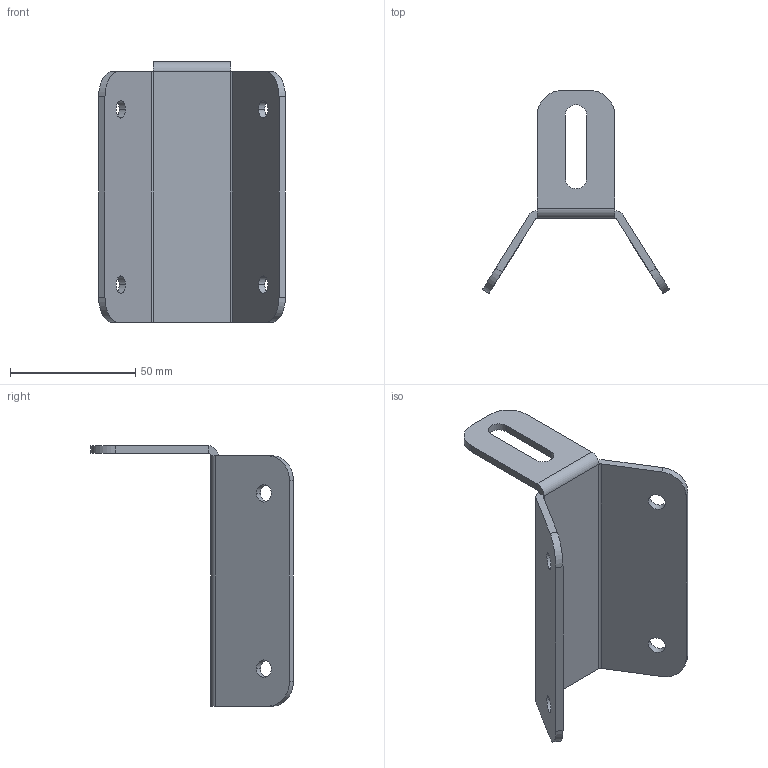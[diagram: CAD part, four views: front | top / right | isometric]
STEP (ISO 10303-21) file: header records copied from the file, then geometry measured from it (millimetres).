
FILE_DESCRIPTION (( 'STEP AP203' ), '1' );
FILE_NAME ('084.106.134.STEP', '2013-01-23T12:20:44', ( 'Alusic' ), ( 'Alusic' ), 'SwSTEP 2.0', 'SolidWorks 2011', '' );
FILE_SCHEMA (( 'CONFIG_CONTROL_DESIGN' ));
Length unit declared in the file: millimetre
Products named in the file (1): 084.106.134
Bounding box: 74.59 x 81 x 104 mm (x, y, z)
Volume: 34743.5 mm3; surface area: 25118.2 mm2
Topology: 1 solids, 1 shells, 46 faces, 112 edges, 68 vertices
Faces by surface type: plane 24, cylinder 22
Entity records: 1437 total; most frequent: DIRECTION 250, CARTESIAN_POINT 227, ORIENTED_EDGE 224, EDGE_CURVE 112, AXIS2_PLACEMENT_3D 91, VERTEX_POINT 68, VECTOR 68, LINE 68
